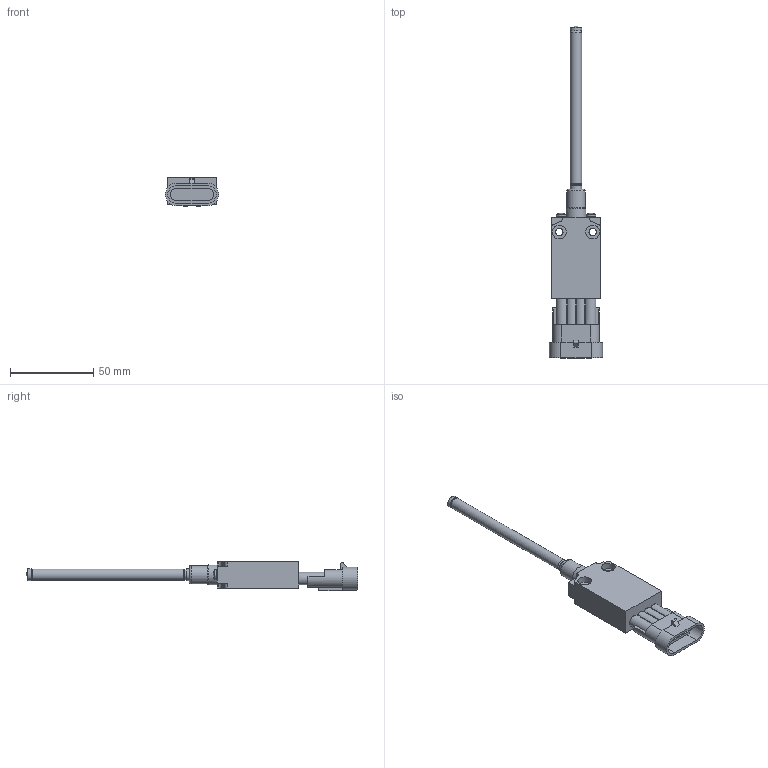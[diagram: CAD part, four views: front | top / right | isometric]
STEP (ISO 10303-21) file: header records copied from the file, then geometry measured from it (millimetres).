
FILE_DESCRIPTION(/* description */ (''),/* implementation_level */ '2;1');
FILE_NAME(/* name */ 'C:\Users\servizio.tecnico\Desktop\CADENAS\3D\EP1_STP\STP_EP1_G93A.stp',/* time_stamp */ '2017-09-04T10:54:49+02:00',/* author */ ('servizio.tecnico'),/* organization */ (''),/* preprocessor_version */ 'ST-DEVELOPER v16.1',/* originating_system */ 'Autodesk Inventor 2016',/* authorisation */ '');
FILE_SCHEMA (('AUTOMOTIVE_DESIGN { 1 0 10303 214 3 1 1 }'));
Length unit declared in the file: millimetre
Products named in the file (3): Product; EP1G93-A; BASE ASSI 
Assembly tree (2 placements, depth 3):
  BASE ASSI 
    EP1G93-A
      Product
Bounding box: 32 x 199.2 x 17.5 mm (x, y, z)
Volume: 33634 mm3; surface area: 13761.6 mm2
Topology: 3 solids, 3 shells, 153 faces, 397 edges, 259 vertices
Faces by surface type: plane 88, cylinder 49, cone 9, torus 5, sphere 2
Full cylindrical faces by diameter (mm): 4.4 x2, 5.9 x1, 6.8 x1, 7 x2, 8.2 x4, 11 x1, 12 x1
Entity records: 4626 total; most frequent: DIRECTION 794, CARTESIAN_POINT 780, ORIENTED_EDGE 720, EDGE_CURVE 360, AXIS2_PLACEMENT_3D 284, VERTEX_POINT 246, LINE 226, VECTOR 226
